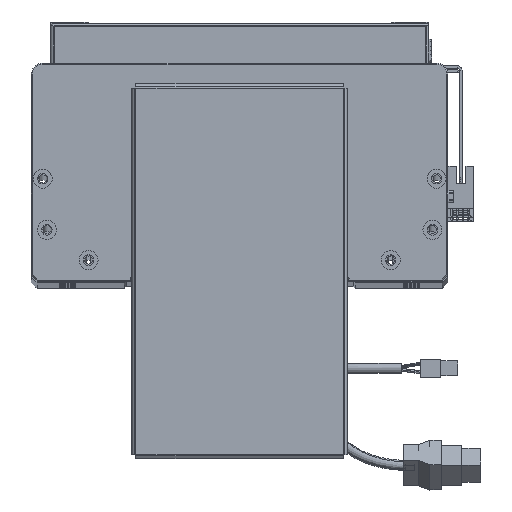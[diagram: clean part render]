
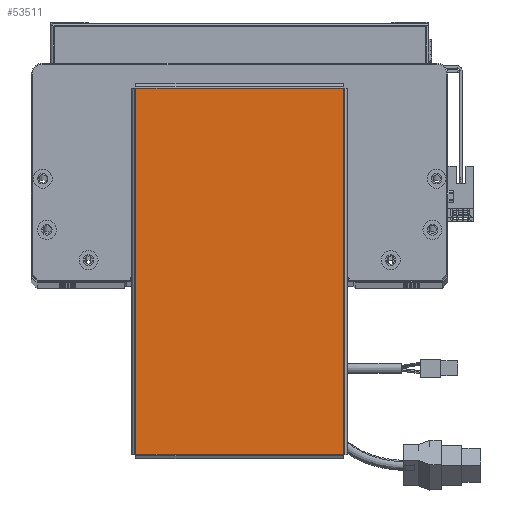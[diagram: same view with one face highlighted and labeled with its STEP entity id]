
A CAD part, top view. The second image highlights one B-rep face of the part: STEP entity #53511.
In plain terms, the highlighted planar face has unit normal (0, 0, 1).
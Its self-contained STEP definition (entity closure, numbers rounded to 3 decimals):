
#291 = LINE ( 'NONE', #68662, #27781 ) ;
#1032 = VERTEX_POINT ( 'NONE', #32337 ) ;
#4560 = LINE ( 'NONE', #31237, #6208 ) ;
#4652 = CARTESIAN_POINT ( 'NONE',  ( 96.763, -54.793, 0. ) ) ;
#6208 = VECTOR ( 'NONE', #14511, 1000. ) ;
#7845 = VECTOR ( 'NONE', #26033, 1000. ) ;
#7914 = AXIS2_PLACEMENT_3D ( 'NONE', #64582, #28020, #22948 ) ;
#11591 = EDGE_CURVE ( 'NONE', #19047, #25413, #15269, .T. ) ;
#14511 = DIRECTION ( 'NONE',  ( 1., 0., 0. ) ) ;
#15269 = LINE ( 'NONE', #4652, #41940 ) ;
#19047 = VERTEX_POINT ( 'NONE', #21704 ) ;
#21704 = CARTESIAN_POINT ( 'NONE',  ( 96.763, -54.763, 0. ) ) ;
#22002 = PLANE ( 'NONE',  #7914 ) ;
#22948 = DIRECTION ( 'NONE',  ( 1., 0., 0. ) ) ;
#25413 = VERTEX_POINT ( 'NONE', #40802 ) ;
#25727 = ORIENTED_EDGE ( 'NONE', *, *, #11591, .T. ) ;
#26033 = DIRECTION ( 'NONE',  ( -1., 0., 0. ) ) ;
#27781 = VECTOR ( 'NONE', #53271, 1000. ) ;
#28020 = DIRECTION ( 'NONE',  ( 0., 0., 1. ) ) ;
#29007 = VERTEX_POINT ( 'NONE', #35665 ) ;
#30174 = ORIENTED_EDGE ( 'NONE', *, *, #58495, .T. ) ;
#31237 = CARTESIAN_POINT ( 'NONE',  ( -96.793, -54.763, 0. ) ) ;
#32337 = CARTESIAN_POINT ( 'NONE',  ( -96.763, 54.763, 0. ) ) ;
#35665 = CARTESIAN_POINT ( 'NONE',  ( -96.763, -54.763, 0. ) ) ;
#39939 = EDGE_LOOP ( 'NONE', ( #30174, #25727, #65312, #53443 ) ) ;
#40802 = CARTESIAN_POINT ( 'NONE',  ( 96.763, 54.763, 0. ) ) ;
#41940 = VECTOR ( 'NONE', #64154, 1000. ) ;
#42811 = LINE ( 'NONE', #57703, #7845 ) ;
#45535 = EDGE_CURVE ( 'NONE', #25413, #1032, #42811, .T. ) ;
#53271 = DIRECTION ( 'NONE',  ( 0., -1., 0. ) ) ;
#53443 = ORIENTED_EDGE ( 'NONE', *, *, #55726, .T. ) ;
#53511 = ADVANCED_FACE ( 'NONE', ( #61358 ), #22002, .T. ) ;
#55726 = EDGE_CURVE ( 'NONE', #1032, #29007, #291, .T. ) ;
#57703 = CARTESIAN_POINT ( 'NONE',  ( 96.793, 54.763, 0. ) ) ;
#58495 = EDGE_CURVE ( 'NONE', #29007, #19047, #4560, .T. ) ;
#61358 = FACE_OUTER_BOUND ( 'NONE', #39939, .T. ) ;
#64154 = DIRECTION ( 'NONE',  ( 0., 1., 0. ) ) ;
#64582 = CARTESIAN_POINT ( 'NONE',  ( 0., 0., 0. ) ) ;
#65312 = ORIENTED_EDGE ( 'NONE', *, *, #45535, .T. ) ;
#68662 = CARTESIAN_POINT ( 'NONE',  ( -96.763, 54.793, 0. ) ) ;
